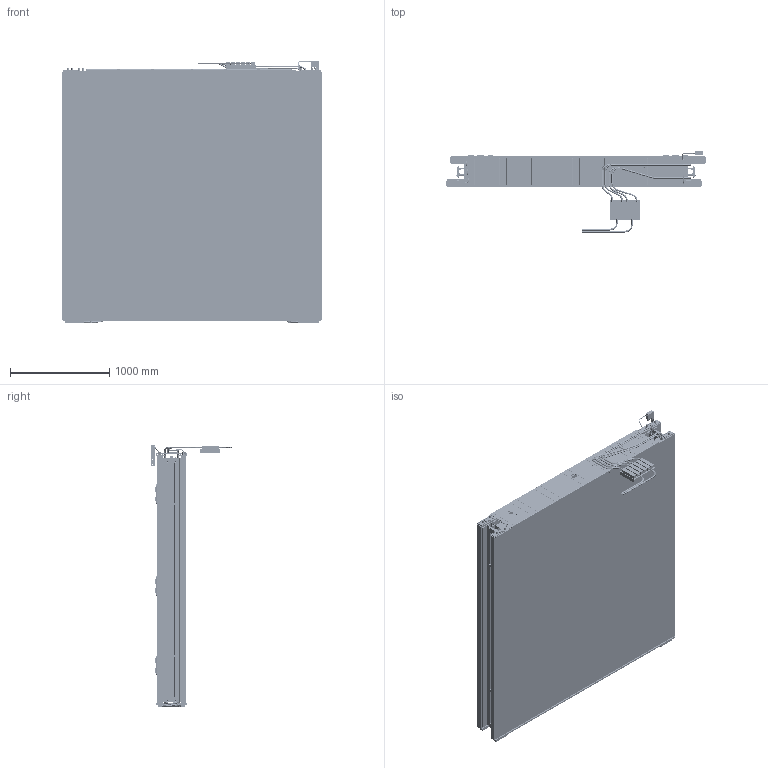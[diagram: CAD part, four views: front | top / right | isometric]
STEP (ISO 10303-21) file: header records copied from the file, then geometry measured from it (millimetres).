
FILE_DESCRIPTION(/* description */ (''),/* implementation_level */ '2;1');
FILE_NAME(/* name */ '040209_mb410_2_4_10_sx_phi_L_carters.stp',/* time_stamp */ '2022-07-08T12:53:16+02:00',/* author */ (''),/* organization */ (''),/* preprocessor_version */ 'ST-DEVELOPER v18.102',/* originating_system */ 'SIEMENS PLM Software NX 2000',/* authorisation */ '');
FILE_SCHEMA (('AUTOMOTIVE_DESIGN { 1 0 10303 214 3 1 1 1 }'));
Products named in the file (146): busbar_pin; ass_4_variables; piastra_0011_spess; piastra_0011; rivetto_4; guide_schematik_for_verify2; guide_schematik_for_verify; spina_5x26; elicoil; rivetto_svas_m10; power_supply_model; tappo1_4; connett_test_p; mb45_phi_lam_vars; mb3c_phi_lam_vars; mb3_phi_lam_vars; mb2c_th_lam_vars; mb2c_phi_lam_vars; mb2_th_lam_vars; mb2_phi_lam_vars; mb3c_th_lam_vars; mb45c_phi_lam_vars; mb3_th_lam_vars; mb48_phi_lam_vars; mb1_phi_lam_vars; mb1_th_lam_vars; mb49_phi_lam_vars; mb1c_phi_lam_vars; mb1c_th_lam_vars; cover_new2; axis; tappo1_8; colon_front_000308; block_sh12_000301; w4_10_hc_skin_178; w4_10_hc_core_178; cms_mb_05_010; fork; cms_mb_02_027; cms_mb_02_014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
Assembly tree (337 placements, depth 9):
  040209_mb410_2_4_10_sx_phi_L_carters
    mb410_2_4_10_sx_ass
      mb410_2_4_10_sx_ch
        mb2_phi_superlay  x2
          mb2_q1_ass_lamiere
            mb2_q1_b1
            mb2_q1_b1_up
            cms_mb_02_004  x4
              mb2_ass_4_variables
                ass_4_variables
          mb2_q1_ass_lateral
            as_angle  x2
              block_sh12_000301
              colon_front_000308
            cms_mb_02_014
          vite_m4
          mb2_q1_cover_hv_ass
            cms_mb_02_027
            cms_mb_02_022
              tappo1_8  x2
              axis  x35
            as_hv_conn_cover  x2
              cover_new2
          vars
            mb1c_th_vars
              mb1c_th_lam_vars
            mb1c_phi_vars
              mb1c_phi_lam_vars
            mb49_phi_vars
              mb49_phi_lam_vars
            mb1_th_vars
              mb1_th_lam_vars
            mb1_phi_vars
              mb1_phi_lam_vars
            mb48_phi_vars
              mb48_phi_lam_vars
            mb3_th_vars
              mb3_th_lam_vars
            mb45c_phi_vars
              mb45c_phi_lam_vars
            mb3c_th_vars
              mb3c_th_lam_vars
            mb2_phi_vars
              mb2_phi_lam_vars
            mb2_th_vars
              mb2_th_lam_vars
            mb2c_phi_vars
              mb2c_phi_lam_vars
            mb2c_th_vars
              mb2c_th_lam_vars
            mb3_phi_vars
              mb3_phi_lam_vars
            mb3c_phi_vars
              mb3c_phi_lam_vars
            mb45_phi_vars
              mb45_phi_lam_vars
          2550_ass
            2550_cms_mb_02_043
              axis  x39
              connett_test_p  x4
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Bounding box: 2612 x 815.75 x 2646.02 mm (x, y, z)
Volume: 1792195962.4 mm3; surface area: 184522049.9 mm2
Topology: 325 solids, 325 shells, 14560 faces, 38534 edges, 24582 vertices
Faces by surface type: plane 8689, cylinder 4787, cone 862, bspline 110, torus 80, sphere 32
Full cylindrical faces by diameter (mm): 1 x226, 1.675 x16, 2.594 x56, 3 x68, 3.2 x8, 3.25 x2, 3.3 x24, 3.432 x431, 3.5 x44, 3.778 x7, 4 x34, 4.351 x8, 4.8 x34, 5 x91, 5.188 x64, 5.5 x308, 6 x23, 6.4 x50, 6.5 x17, 7 x2, 7.188 x4, 7.5 x60, 8 x51, 8.6 x6, 8.782 x4, 8.8 x10, 8.933 x24, 8.985 x24, 9 x4, 9.061 x2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
Entity records: 297936 total; most frequent: CARTESIAN_POINT 74761, ORIENTED_EDGE 43544, DIRECTION 43185, EDGE_CURVE 21772, AXIS2_PLACEMENT_3D 14720, VERTEX_POINT 14349, LINE 13745, VECTOR 13745
